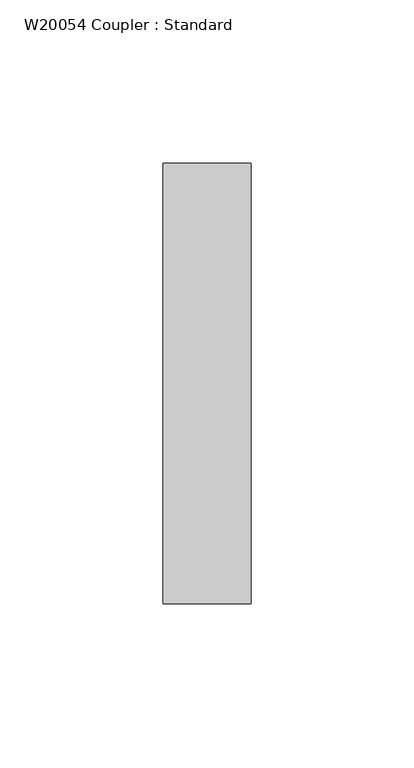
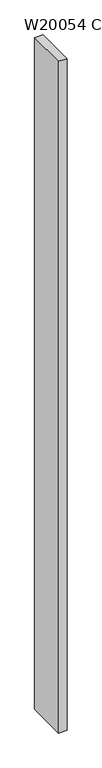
"""IFC4 building model written with IfcOpenShell, lengths in millimetres: proxy geometry, W20054 Coupler : Standard."""

from ifc_helpers import new_model, si_unit, frame, origin, place, context, project, spatial, polyline, outline, extrude, source, transform, mapped, element, save


def w20054_coupler_standard_fb557c19(model_context):
    return source(origin(), model_context, "Body", "SweptSolid", [
        extrude(outline(polyline([(138.5, 28.0), (138.5, -107.0), (111.5, -107.0), (111.5, 28.0), (138.5, 28.0)])), frame((0.0, 0.0, 400.0), z_axis=(0.0, 0.0, 1.0), x_axis=(1.0, 0.0, 0.0)), (0.0, 0.0, 1.0), 2315.1174886),
    ])


if __name__ == "__main__":
    model = new_model("IFC4")
    model_context = context("Model", 3, world=origin())
    ifc_project = project(units=[si_unit("LENGTHUNIT", "METRE", prefix="MILLI")], contexts=[model_context])
    site = spatial("IfcSite", under=ifc_project)
    building = spatial("IfcBuilding", under=site)
    placement = place(None, origin())
    w20054_coupler_standard_shape = w20054_coupler_standard_fb557c19(model_context)
    element("IfcBuildingElementProxy", 1, Name="W20054 Coupler : Standard", ObjectType="W20054 Coupler : Standard", at=placement, inside=building, context=model_context, shape_type="MappedRepresentation", body=[
        mapped(w20054_coupler_standard_shape, transform((0.0, 0.0, 0.0), x_axis=(1.0, 0.0, 0.0), y_axis=(0.0, 1.0, 0.0), z_axis=(0.0, 0.0, 1.0))),
    ])
    save(model, "model.ifc")
